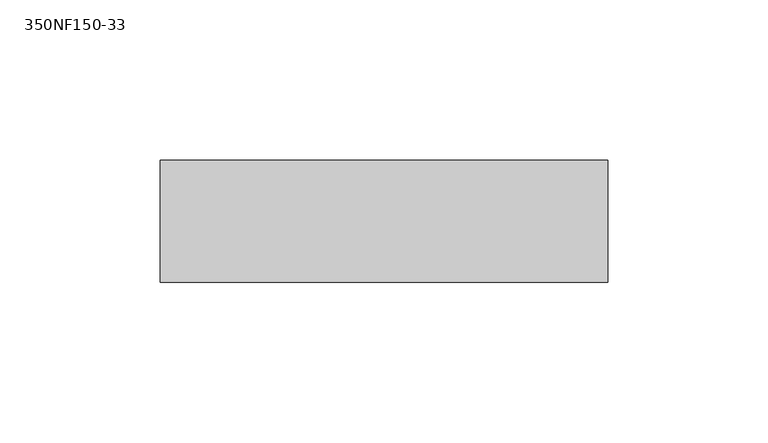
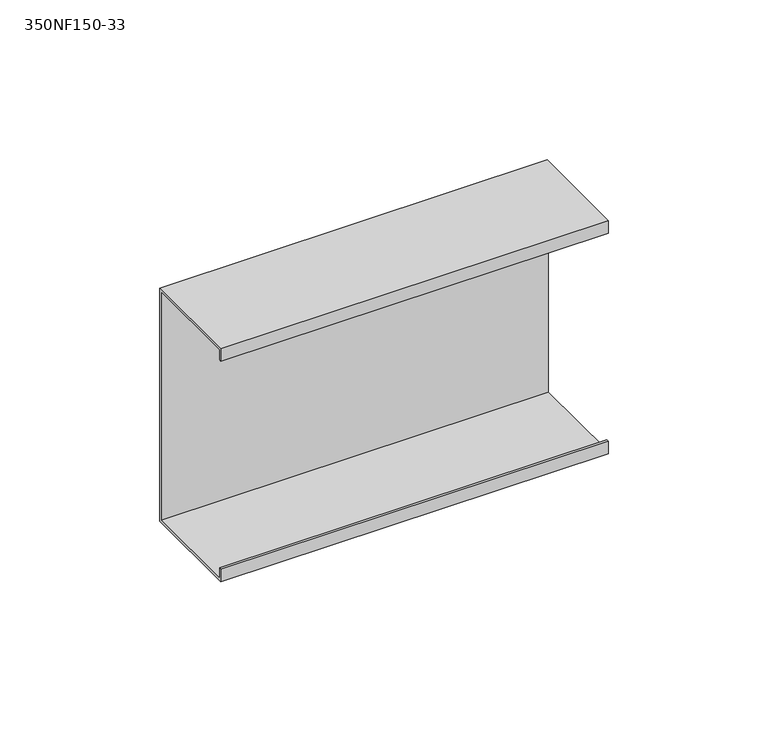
"""IFC4 building model written with IfcOpenShell, lengths in millimetres: beam geometry, BIMSF-SSMA-S : 350NF150-33."""

from ifc_helpers import new_model, si_unit, frame, origin, place, context, project, spatial, polyline, outline, extrude, source, transform, mapped, element, save


def beam_350nf150_33_264438c5(model_context):
    return source(origin(), model_context, "Body", "SweptSolid", [
        extrude(outline(polyline([(19.05, 44.45), (19.05, -44.45), (-19.05, -44.45), (-19.05, -39.6748), (-18.1676842, -39.6748), (-18.1676842, -43.5676842), (18.1676842, -43.5676842), (18.1676842, 43.5676842), (-18.1676842, 43.5676842), (-18.1676842, 39.6748), (-19.05, 39.6748), (-19.05, 44.45), (19.05, 44.45)])), frame((-69.85, 0.0, 0.0), z_axis=(1.0, 0.0, 0.0), x_axis=(0.0, 1.0, 0.0)), (0.0, 0.0, 1.0), 139.7),
    ])


if __name__ == "__main__":
    model = new_model("IFC4")
    model_context = context("Model", 3, world=origin())
    ifc_project = project(units=[si_unit("LENGTHUNIT", "METRE", prefix="MILLI")], contexts=[model_context])
    site = spatial("IfcSite", under=ifc_project)
    building = spatial("IfcBuilding", under=site)
    placement = place(None, origin())
    beam_350nf150_33_shape = beam_350nf150_33_264438c5(model_context)
    element("IfcBeam", 1, ObjectType="BIMSF-SSMA-S : 350NF150-33", at=placement, inside=building, context=model_context, shape_type="MappedRepresentation", body=[
        mapped(beam_350nf150_33_shape, transform((0.0, 0.0, 0.0), x_axis=(1.0, 0.0, 0.0), y_axis=(0.0, 1.0, 0.0), z_axis=(0.0, 0.0, 1.0))),
    ])
    save(model, "model.ifc")
